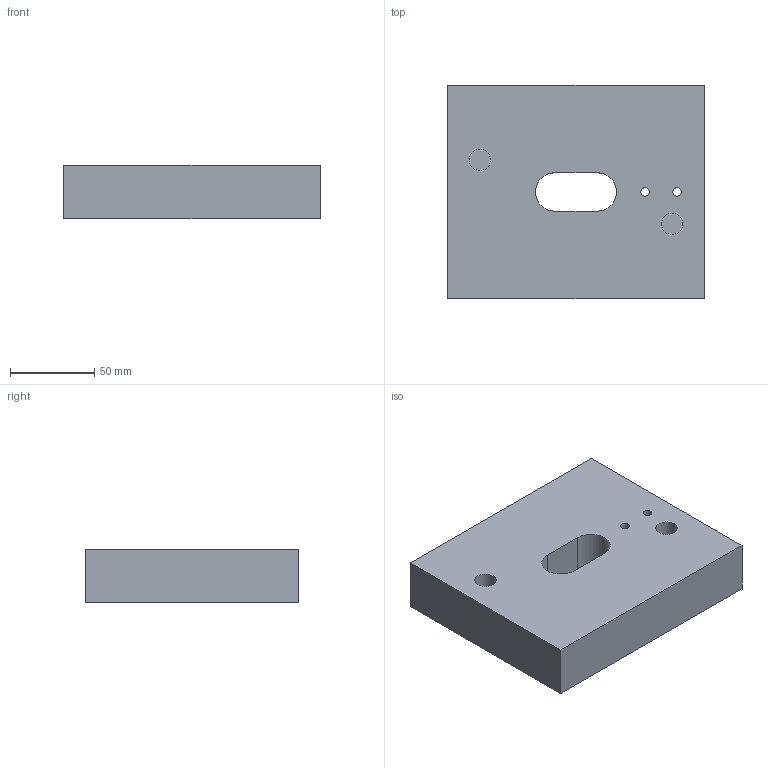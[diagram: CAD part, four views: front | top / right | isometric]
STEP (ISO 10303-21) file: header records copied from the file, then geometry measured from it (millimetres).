
FILE_DESCRIPTION (( 'STEP AP214' ), '1' );
FILE_NAME ('DIE PLATE.STEP', '2020-05-25T15:56:31', ( '' ), ( '' ), 'SwSTEP 2.0', 'SolidWorks 2020', '' );
FILE_SCHEMA (( 'AUTOMOTIVE_DESIGN' ));
Length unit declared in the file: inch
Products named in the file (1): DIE PLATE
Bounding box: 152.4 x 127 x 31.75 mm (x, y, z)
Volume: 577196.2 mm3; surface area: 60751.6 mm2
Topology: 1 solids, 1 shells, 27 faces, 63 edges, 42 vertices
Faces by surface type: cylinder 15, plane 12
Entity records: 839 total; most frequent: DIRECTION 149, CARTESIAN_POINT 133, ORIENTED_EDGE 126, EDGE_CURVE 63, AXIS2_PLACEMENT_3D 58, VERTEX_POINT 42, EDGE_LOOP 37, VECTOR 33
